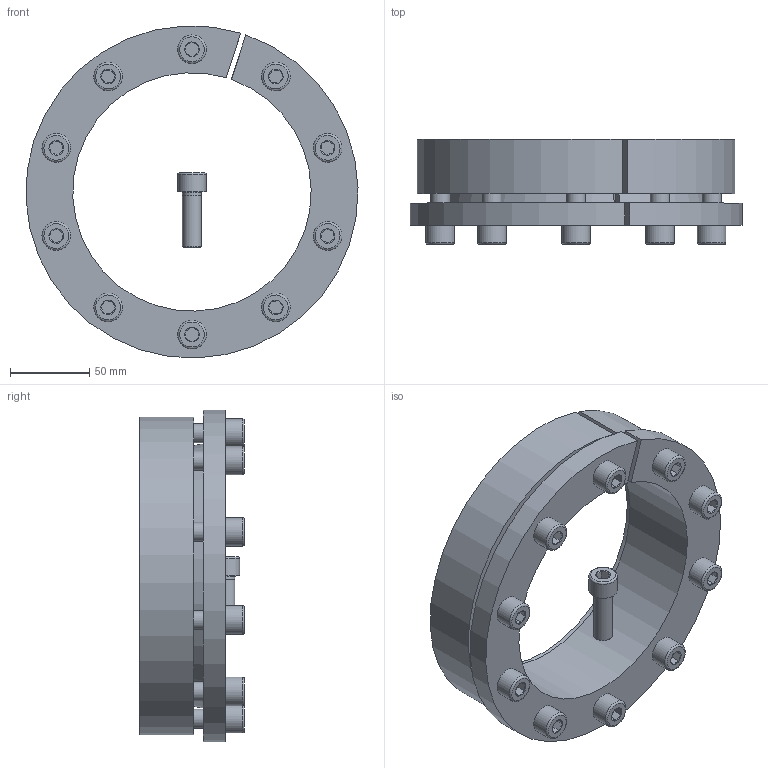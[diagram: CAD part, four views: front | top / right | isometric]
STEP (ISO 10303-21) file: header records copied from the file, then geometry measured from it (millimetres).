
FILE_DESCRIPTION( ( 'Unknown' ), '1' );
FILE_NAME( 'C:/Dokumente und Einstellungen/Sven/Desktop/homepage/cad - homepage/KBS16/KBS 16 - 150 x 200.stp', 'Unknown', ( 'Unknown' ), ( 'Unknown' ), 'XStep 1.0', 'Unknown', ' ' );
FILE_SCHEMA( ( 'automotive_design' ) );
Length unit declared in the file: millimetre
Products named in the file (3): Assem1; KBS 16 - 150 x 200; ISO EN DIN 4762 M12x35
Bounding box: 208.88 x 66 x 208.81 mm (x, y, z)
Volume: 1399258 mm3; surface area: 285528.4 mm2
Topology: 13 solids, 13 shells, 339 faces, 673 edges, 404 vertices
Faces by surface type: plane 146, cylinder 90, cone 81, torus 22
Full cylindrical faces by diameter (mm): 11 x11, 12 x62, 18 x11
Entity records: 1978 total; most frequent: CARTESIAN_POINT 315, DIRECTION 300, ORIENTED_EDGE 210, AXIS2_PLACEMENT_3D 136, EDGE_LOOP 128, EDGE_CURVE 105, FACE_OUTER_BOUND 83, VERTEX_POINT 83
